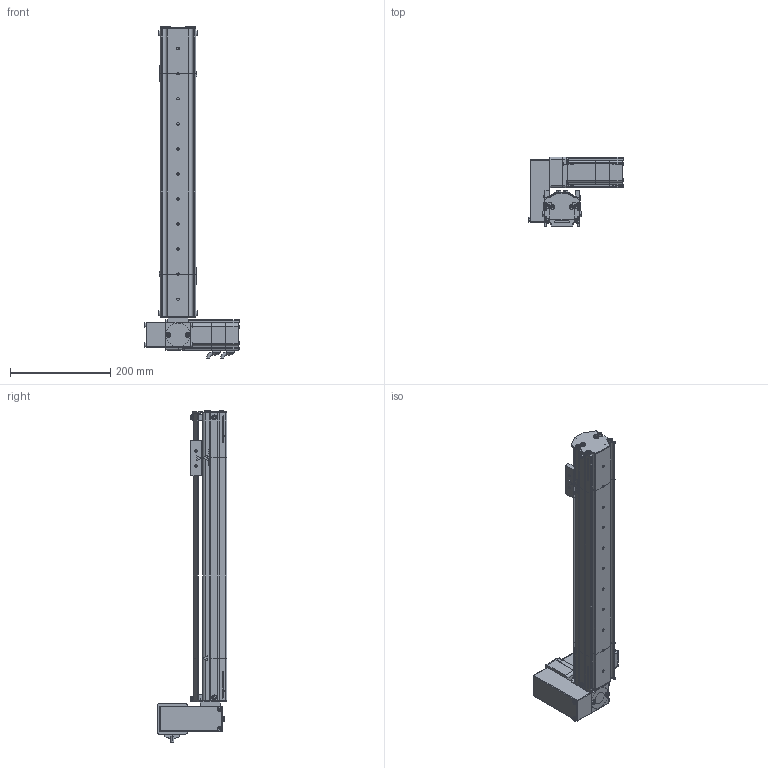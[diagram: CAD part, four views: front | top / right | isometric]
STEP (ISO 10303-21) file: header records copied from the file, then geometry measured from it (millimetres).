
FILE_DESCRIPTION (( 'STEP AP214' ), '1' );
FILE_NAME ('S07 TB RT S400.STEP', '2010-06-29T11:24:04', ( 'Conseil Régional Haute-Normandie' ), ( 'Conseil Régional Haute-Normandie' ), 'SwSTEP 2.0', 'SolidWorks 2010', '' );
FILE_SCHEMA (( 'AUTOMOTIVE_DESIGN' ));
Length unit declared in the file: millimetre
Products named in the file (41): S07 TB RT S400; Couroie  course 400_Default; Corp S07 course 400_Default; Course C L400_Default; plaque de bout RT_Default; corp moteur TB(146)_Default; S07 RT(146)_Default; couvercle S07 course 400 ; Poulie head_Default; cache t皻e axe_Default; couvercle moteur S07 TB; Pièce5^S07 RT(146); vis M5 L5_Default; cache t皻e_Default; renvoi RT_Default; Plaque racord_Default; Couroie t皻e_Default; P2 90A_Default; P1_Default; GMB 60 90 310_Default; P3 90A_Default; vis M5 L16_Default; guide; CHariot_Default; Chariot; couroie tail_Default; vis M5 L12_Default; Poulie_Default; plaque de bout_Default; corp tail TB_Default; S07 TB tail (78)_Default; T皻e de poulie_Default; couvercle tail TB; Vis M5 L16-2_Default; Cvis M5 L30_Default; VisM3_Default; Conecteur2 60BLDC_Default; Conecteur 60BLDC_Default; Axe 60BLDC_Default; P4_Default
Assembly tree (80 placements, depth 4):
  S07 TB RT S400
    Course C L400_Default
      couvercle S07 course 400 
      Couroie  course 400_Default
      Corp S07 course 400_Default
    CHariot_Default
      guide
      vis M5 L16_Default  x2
      Chariot
    S07 TB tail (78)_Default
      vis M5 L12_Default  x10
      corp tail TB_Default
      couvercle tail TB
      Poulie_Default
        Poulie_Default
        T皻e de poulie_Default
      couroie tail_Default
      plaque de bout_Default
    S07 RT(146)_Default
      Cvis M5 L30_Default  x2
      Vis M5 L16-2_Default  x8
      Plaque racord_Default
      vis M5 L12_Default  x6
      cache t皻e_Default  x2
      Poulie head_Default
      vis M5 L5_Default  x6
      couvercle moteur S07 TB
      cache t皻e axe_Default
      plaque de bout RT_Default
      renvoi RT_Default
      GMB 60 90 310_Default
        VisM3_Default  x12
        P3 90A_Default
        P1_Default
        Conecteur 60BLDC_Default
        P2 90A_Default
        Axe 60BLDC_Default
        P4_Default
        Conecteur2 60BLDC_Default
      corp moteur TB(146)_Default
      Couroie t皻e_Default
  Pièce5^S07 RT(146)
Bounding box: 190.2 x 139.5 x 662 mm (x, y, z)
Volume: 1721771.1 mm3; surface area: 685473.6 mm2
Topology: 102 solids, 102 shells, 3898 faces, 9720 edges, 6277 vertices
Faces by surface type: plane 2222, cylinder 746, bspline 677, cone 125, torus 124, sphere 4
Entity records: 166549 total; most frequent: CARTESIAN_POINT 75089, ORIENTED_EDGE 15352, DIRECTION 12163, EDGE_CURVE 7676, VERTEX_POINT 5065, LINE 5029, VECTOR 5029, AXIS2_PLACEMENT_3D 3567
